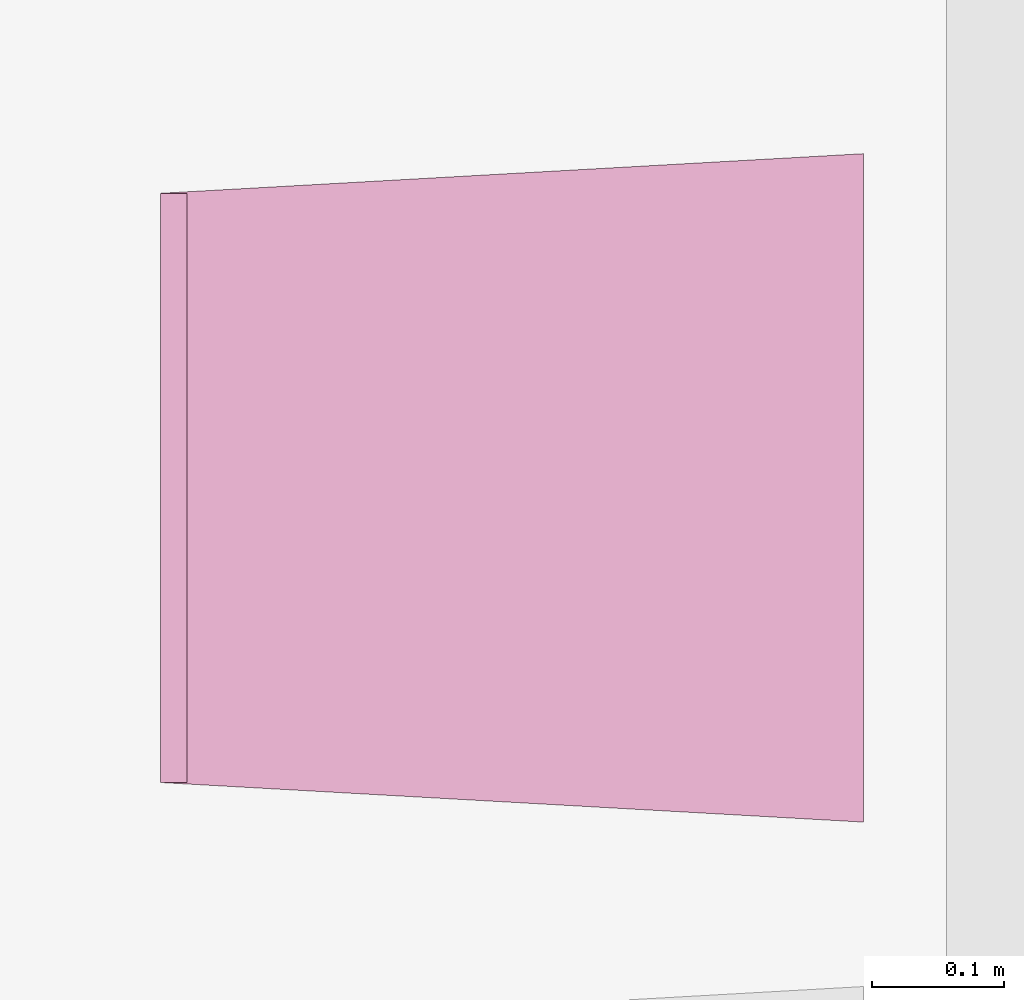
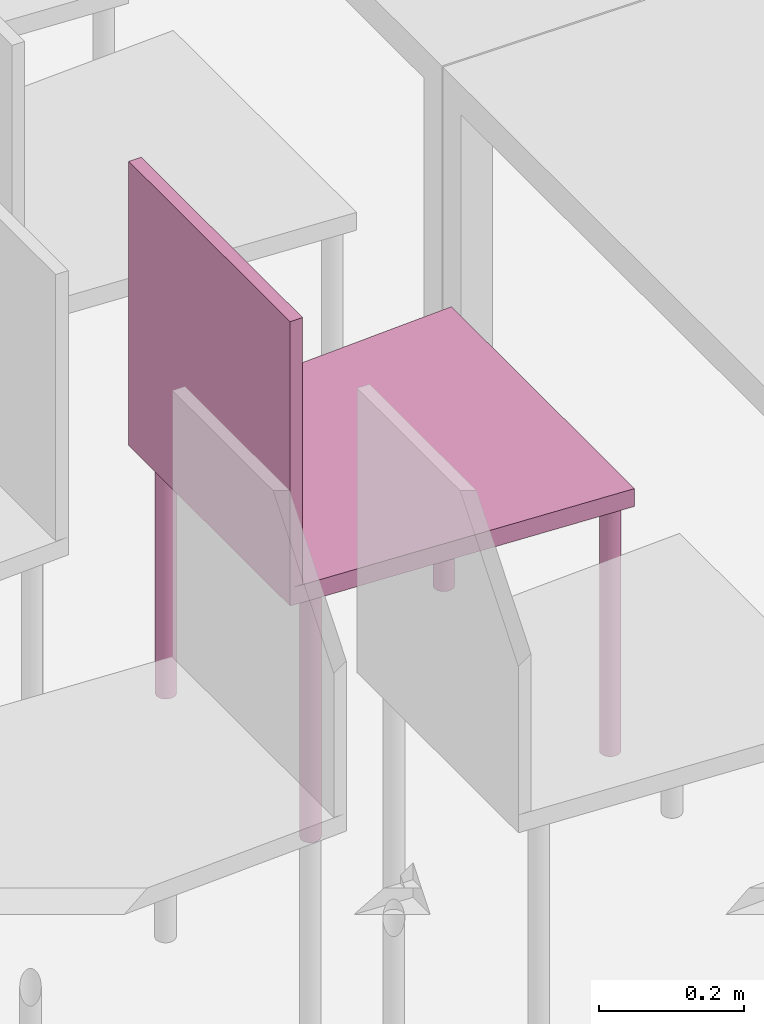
"""IFC4 building model written with IfcOpenShell, lengths in metres."""

from ifc_helpers import new_model, entity, si_unit, converted_unit, derived_unit, frame, origin, place, context, subcontext, project, spatial, faceted_brep, element, save


model = new_model("IFC4")

# Units and contexts
model_context = context("Model", 3, precision=1e-05, world=origin())
body_context = subcontext(model_context, "Body", "Model", "MODEL_VIEW")
ifc_project = project(units=[si_unit("LENGTHUNIT", "METRE"), si_unit("AREAUNIT", "SQUARE_METRE"), si_unit("VOLUMEUNIT", "CUBIC_METRE"), si_unit("MASSUNIT", "GRAM", prefix="KILO"), converted_unit("PLANEANGLEUNIT", "DEGREE", entity("IfcPlaneAngleMeasure", 0.0174532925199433), si_unit("PLANEANGLEUNIT", "RADIAN"), dimensions=[0, 0, 0, 0, 0, 0, 0]), derived_unit("THERMALTRANSMITTANCEUNIT", [(si_unit("POWERUNIT", "WATT"), 1), (si_unit("THERMODYNAMICTEMPERATUREUNIT", "KELVIN"), -1), (si_unit("LENGTHUNIT", "METRE"), -2)]), derived_unit("VOLUMETRICFLOWRATEUNIT", [(si_unit("LENGTHUNIT", "METRE"), 3), (converted_unit("TIMEUNIT", "hour", entity("IfcTimeMeasure", 3600.0), si_unit("TIMEUNIT", "SECOND"), dimensions=[0, 0, 1, 0, 0, 0, 0]), -1), (si_unit("LENGTHUNIT", "METRE"), -1)])], contexts=[model_context])

# Building, storeys
building_placement = place(None, origin())
building = spatial("IfcBuilding", under=ifc_project, at=building_placement, Name="HABITATGE PLURIFAMILIAR", CompositionType="ELEMENT")
storey_1_placement = place(building_placement, frame((0.0, 0.0, 3.35)))
storey_1 = spatial("IfcBuildingStorey", under=building, at=storey_1_placement, Name="PLANTA  ALTELL", CompositionType="ELEMENT", Elevation=3.35)
storey_2_placement = place(storey_1_placement, origin())
storey_2 = spatial("IfcBuildingStorey", under=storey_1, at=storey_2_placement, Name="NOU", CompositionType="PARTIAL")

# Furniture
furniture_placement = place(storey_2_placement, frame((401.456206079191, 15.4103721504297, 0.0499839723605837)))
element("IfcFurniture", 1, at=furniture_placement, inside=storey_2, Name="Cadira confident_PA", context=body_context, shape_type="Brep", body=[
    faceted_brep([(0.507575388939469, 0.0391636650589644, 0.0), (0.504980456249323, 0.0389479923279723, 0.0), (0.502462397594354, 0.0382849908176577, 0.0), (0.500097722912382, 0.0371948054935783, 0.0), (0.497958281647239, 0.0357105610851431, 0.0), (0.496109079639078, 0.0338773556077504, 0.0), (0.494606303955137, 0.0317508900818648, 0.0), (0.493495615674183, 0.0293957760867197, 0.0), (0.492810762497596, 0.0268835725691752, 0.0), (0.492572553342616, 0.0242906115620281, 0.0), (0.492788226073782, 0.0216956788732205, 0.0), (0.493451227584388, 0.019177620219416, 0.0), (0.494541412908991, 0.0168129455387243, 0.0), (0.496025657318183, 0.0146735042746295, 0.0), (0.497858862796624, 0.0128243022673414, 0.0), (0.499985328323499, 0.0113215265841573, 0.0), (0.502340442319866, 0.0102108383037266, 0.0), (0.504852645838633, 0.00952598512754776, 0.0), (0.507445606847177, 0.00928777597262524, 0.0), (0.510040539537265, 0.00950344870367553, 0.0), (0.512558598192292, 0.010166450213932, 0.0), (0.514923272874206, 0.0112566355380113, 0.0), (0.517062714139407, 0.0127408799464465, 0.0), (0.518911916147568, 0.0145740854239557, 0.0), (0.520414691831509, 0.0167005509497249, 0.0), (0.521525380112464, 0.0190556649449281, 0.0), (0.52221023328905, 0.0215678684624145, 0.0), (0.522448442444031, 0.0241608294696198, 0.0), (0.522232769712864, 0.0267557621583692, 0.0), (0.521569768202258, 0.0292738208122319, 0.0), (0.520479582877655, 0.0316384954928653, 0.0), (0.518995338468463, 0.0337779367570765, 0.0), (0.517162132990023, 0.0356271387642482, 0.0), (0.515035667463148, 0.0371299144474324, 0.0), (0.51268055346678, 0.038240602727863, 0.0), (0.510168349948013, 0.0389254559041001, 0.0), (0.507575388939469, 0.0391636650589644, 0.448281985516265), (0.510168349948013, 0.0389254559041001, 0.448281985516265), (0.51268055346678, 0.038240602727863, 0.448281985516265), (0.515035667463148, 0.0371299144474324, 0.448281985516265), (0.517162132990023, 0.0356271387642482, 0.448281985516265), (0.518995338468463, 0.0337779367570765, 0.448281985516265), (0.520479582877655, 0.0316384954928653, 0.448281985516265), (0.521569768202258, 0.0292738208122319, 0.448281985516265), (0.522232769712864, 0.0267557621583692, 0.448281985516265), (0.522448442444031, 0.0241608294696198, 0.448281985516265), (0.52221023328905, 0.0215678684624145, 0.448281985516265), (0.521525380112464, 0.0190556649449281, 0.448281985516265), (0.520414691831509, 0.0167005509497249, 0.448281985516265), (0.518911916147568, 0.0145740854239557, 0.448281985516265), (0.517062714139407, 0.0127408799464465, 0.448281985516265), (0.514923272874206, 0.0112566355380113, 0.448281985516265), (0.512558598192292, 0.010166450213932, 0.448281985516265), (0.510040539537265, 0.00950344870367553, 0.448281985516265), (0.507445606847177, 0.00928777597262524, 0.448281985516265), (0.504852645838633, 0.00952598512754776, 0.448281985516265), (0.502340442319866, 0.0102108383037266, 0.448281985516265), (0.499985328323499, 0.0113215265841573, 0.448281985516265), (0.497858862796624, 0.0128243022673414, 0.448281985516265), (0.496025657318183, 0.0146735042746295, 0.448281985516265), (0.494541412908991, 0.0168129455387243, 0.448281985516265), (0.493451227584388, 0.019177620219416, 0.448281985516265), (0.492788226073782, 0.0216956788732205, 0.448281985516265), (0.492572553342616, 0.0242906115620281, 0.448281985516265), (0.492810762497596, 0.0268835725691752, 0.448281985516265), (0.493495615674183, 0.0293957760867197, 0.448281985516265), (0.494606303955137, 0.0317508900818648, 0.448281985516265), (0.496109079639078, 0.0338773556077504, 0.448281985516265), (0.497958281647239, 0.0357105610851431, 0.448281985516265), (0.500097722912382, 0.0371948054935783, 0.448281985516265), (0.502462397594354, 0.0382849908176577, 0.448281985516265), (0.504980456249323, 0.0389479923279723, 0.448281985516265)], [[[0, 1, 2, 3, 4, 5, 6, 7, 8, 9, 10, 11, 12, 13, 14, 15, 16, 17, 18, 19, 20, 21, 22, 23, 24, 25, 26, 27, 28, 29, 30, 31, 32, 33, 34, 35]], [[36, 37, 38, 39, 40, 41, 42, 43, 44, 45, 46, 47, 48, 49, 50, 51, 52, 53, 54, 55, 56, 57, 58, 59, 60, 61, 62, 63, 64, 65, 66, 67, 68, 69, 70, 71]], [[1, 0, 36, 71]], [[2, 1, 71, 70]], [[3, 2, 70, 69]], [[4, 3, 69, 68]], [[5, 4, 68, 67]], [[6, 5, 67, 66]], [[7, 6, 66, 65]], [[8, 7, 65, 64]], [[9, 8, 64, 63]], [[10, 9, 63, 62]], [[11, 10, 62, 61]], [[12, 11, 61, 60]], [[13, 12, 60, 59]], [[14, 13, 59, 58]], [[15, 14, 58, 57]], [[16, 15, 57, 56]], [[17, 16, 56, 55]], [[18, 17, 55, 54]], [[19, 18, 54, 53]], [[20, 19, 53, 52]], [[21, 20, 52, 51]], [[22, 21, 51, 50]], [[23, 22, 50, 49]], [[24, 23, 49, 48]], [[25, 24, 48, 47]], [[26, 25, 47, 46]], [[27, 26, 46, 45]], [[28, 27, 45, 44]], [[29, 28, 44, 43]], [[30, 29, 43, 42]], [[31, 30, 42, 41]], [[32, 31, 41, 40]], [[33, 32, 40, 39]], [[34, 33, 39, 38]], [[35, 34, 38, 37]], [[0, 35, 37, 36]]], orient=[[False], [False], [False], [False], [False], [False], [False], [False], [False], [False], [False], [False], [False], [False], [False], [False], [False], [False], [False], [False], [False], [False], [False], [False], [False], [False], [False], [False], [False], [False], [False], [False], [False], [False], [False], [False], [False], [False]]),
    faceted_brep([(0.0451683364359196, 0.0668016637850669, 0.0), (0.0425734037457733, 0.0665859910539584, 0.0), (0.0400553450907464, 0.065922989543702, 0.0), (0.0376906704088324, 0.0648328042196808, 0.0), (0.0355512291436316, 0.0633485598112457, 0.0), (0.0337020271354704, 0.0615153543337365, 0.0), (0.0321992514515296, 0.0593888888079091, 0.0), (0.0310885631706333, 0.057033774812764, 0.0), (0.0304037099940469, 0.0545215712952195, 0.0), (0.030165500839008, 0.0519286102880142, 0.0), (0.0303811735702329, 0.0493336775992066, 0.0), (0.0310441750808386, 0.0468156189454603, 0.0), (0.0321343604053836, 0.0444509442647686, 0.0), (0.0336186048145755, 0.0423115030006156, 0.0), (0.035451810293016, 0.0404623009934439, 0.0), (0.0375782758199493, 0.0389595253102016, 0.0), (0.0399333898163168, 0.0378488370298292, 0.0), (0.0424455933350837, 0.0371639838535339, 0.0), (0.0450385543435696, 0.0369257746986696, 0.0), (0.0476334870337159, 0.0371414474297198, 0.0), (0.0501515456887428, 0.0378044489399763, 0.0), (0.0525162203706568, 0.0388946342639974, 0.0), (0.0546556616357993, 0.0403788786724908, 0.0), (0.0565048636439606, 0.0422120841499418, 0.0), (0.0580076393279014, 0.0443385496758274, 0.0), (0.0591183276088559, 0.0466936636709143, 0.0), (0.0598031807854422, 0.0492058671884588, 0.0), (0.060041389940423, 0.0517988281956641, 0.0), (0.0598257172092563, 0.0543937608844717, 0.0), (0.0591627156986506, 0.056911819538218, 0.0), (0.0580725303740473, 0.0592764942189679, 0.0), (0.0565882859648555, 0.0614159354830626, 0.0), (0.054755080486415, 0.0632651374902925, 0.0), (0.0526286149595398, 0.0647679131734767, 0.0), (0.0502735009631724, 0.0658786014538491, 0.0), (0.0477612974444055, 0.0665634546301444, 0.0), (0.0451683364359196, 0.0668016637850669, 0.448281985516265), (0.0477612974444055, 0.0665634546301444, 0.448281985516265), (0.0502735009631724, 0.0658786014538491, 0.448281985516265), (0.0526286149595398, 0.0647679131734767, 0.448281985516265), (0.054755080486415, 0.0632651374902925, 0.448281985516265), (0.0565882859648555, 0.0614159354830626, 0.448281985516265), (0.0580725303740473, 0.0592764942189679, 0.448281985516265), (0.0591627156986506, 0.056911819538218, 0.448281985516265), (0.0598257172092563, 0.0543937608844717, 0.448281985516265), (0.060041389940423, 0.0517988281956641, 0.448281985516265), (0.0598031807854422, 0.0492058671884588, 0.448281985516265), (0.0591183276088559, 0.0466936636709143, 0.448281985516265), (0.0580076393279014, 0.0443385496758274, 0.448281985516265), (0.0565048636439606, 0.0422120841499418, 0.448281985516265), (0.0546556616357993, 0.0403788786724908, 0.448281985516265), (0.0525162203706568, 0.0388946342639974, 0.448281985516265), (0.0501515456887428, 0.0378044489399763, 0.448281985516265), (0.0476334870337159, 0.0371414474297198, 0.448281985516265), (0.0450385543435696, 0.0369257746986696, 0.448281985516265), (0.0424455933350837, 0.0371639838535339, 0.448281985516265), (0.0399333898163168, 0.0378488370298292, 0.448281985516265), (0.0375782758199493, 0.0389595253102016, 0.448281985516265), (0.035451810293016, 0.0404623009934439, 0.448281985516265), (0.0336186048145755, 0.0423115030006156, 0.448281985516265), (0.0321343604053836, 0.0444509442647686, 0.448281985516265), (0.0310441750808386, 0.0468156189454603, 0.448281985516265), (0.0303811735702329, 0.0493336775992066, 0.448281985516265), (0.030165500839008, 0.0519286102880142, 0.448281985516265), (0.0304037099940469, 0.0545215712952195, 0.448281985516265), (0.0310885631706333, 0.057033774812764, 0.448281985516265), (0.0321992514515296, 0.0593888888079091, 0.448281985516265), (0.0337020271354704, 0.0615153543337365, 0.448281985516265), (0.0355512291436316, 0.0633485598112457, 0.448281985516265), (0.0376906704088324, 0.0648328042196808, 0.448281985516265), (0.0400553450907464, 0.065922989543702, 0.448281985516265), (0.0425734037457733, 0.0665859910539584, 0.448281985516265)], [[[0, 1, 2, 3, 4, 5, 6, 7, 8, 9, 10, 11, 12, 13, 14, 15, 16, 17, 18, 19, 20, 21, 22, 23, 24, 25, 26, 27, 28, 29, 30, 31, 32, 33, 34, 35]], [[36, 37, 38, 39, 40, 41, 42, 43, 44, 45, 46, 47, 48, 49, 50, 51, 52, 53, 54, 55, 56, 57, 58, 59, 60, 61, 62, 63, 64, 65, 66, 67, 68, 69, 70, 71]], [[1, 0, 36, 71]], [[2, 1, 71, 70]], [[3, 2, 70, 69]], [[4, 3, 69, 68]], [[5, 4, 68, 67]], [[6, 5, 67, 66]], [[7, 6, 66, 65]], [[8, 7, 65, 64]], [[9, 8, 64, 63]], [[10, 9, 63, 62]], [[11, 10, 62, 61]], [[12, 11, 61, 60]], [[13, 12, 60, 59]], [[14, 13, 59, 58]], [[15, 14, 58, 57]], [[16, 15, 57, 56]], [[17, 16, 56, 55]], [[18, 17, 55, 54]], [[19, 18, 54, 53]], [[20, 19, 53, 52]], [[21, 20, 52, 51]], [[22, 21, 51, 50]], [[23, 22, 50, 49]], [[24, 23, 49, 48]], [[25, 24, 48, 47]], [[26, 25, 47, 46]], [[27, 26, 46, 45]], [[28, 27, 45, 44]], [[29, 28, 44, 43]], [[30, 29, 43, 42]], [[31, 30, 42, 41]], [[32, 31, 41, 40]], [[33, 32, 40, 39]], [[34, 33, 39, 38]], [[35, 34, 38, 37]], [[0, 35, 37, 36]]], orient=[[False], [False], [False], [False], [False], [False], [False], [False], [False], [False], [False], [False], [False], [False], [False], [False], [False], [False], [False], [False], [False], [False], [False], [False], [False], [False], [False], [False], [False], [False], [False], [False], [False], [False], [False], [False], [False], [False]]),
    faceted_brep([(0.50757538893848, 0.499163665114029, 0.0), (0.504980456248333, 0.49894799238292, 0.0), (0.502462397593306, 0.498284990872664, 0.0), (0.500097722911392, 0.497194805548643, 0.0), (0.49795828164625, 0.495710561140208, 0.0), (0.49610907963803, 0.493877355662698, 0.0), (0.494606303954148, 0.491750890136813, 0.0), (0.493495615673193, 0.489395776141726, 0.0), (0.492810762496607, 0.486883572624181, 0.0), (0.492572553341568, 0.484290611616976, 0.0), (0.492788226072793, 0.481695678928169, 0.0), (0.493451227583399, 0.479177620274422, 0.0), (0.494541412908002, 0.476812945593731, 0.0), (0.496025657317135, 0.474673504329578, 0.0), (0.497858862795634, 0.472824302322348, 0.0), (0.499985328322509, 0.471321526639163, 0.0), (0.502340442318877, 0.470210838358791, 0.0), (0.504852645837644, 0.469525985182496, 0.0), (0.507445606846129, 0.469287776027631, 0.0), (0.510040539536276, 0.469503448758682, 0.0), (0.512558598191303, 0.470166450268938, 0.0), (0.514923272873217, 0.471256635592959, 0.0), (0.517062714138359, 0.472740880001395, 0.0), (0.518911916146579, 0.474574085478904, 0.0), (0.520414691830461, 0.476700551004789, 0.0), (0.521525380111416, 0.479055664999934, 0.0), (0.522210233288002, 0.481567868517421, 0.0), (0.522448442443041, 0.484160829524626, 0.0), (0.522232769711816, 0.486755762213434, 0.0), (0.521569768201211, 0.489273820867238, 0.0), (0.520479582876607, 0.491638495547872, 0.0), (0.518995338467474, 0.493777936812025, 0.0), (0.517162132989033, 0.495627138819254, 0.0), (0.5150356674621, 0.497129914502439, 0.0), (0.512680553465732, 0.498240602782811, 0.0), (0.510168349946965, 0.498925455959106, 0.0), (0.50757538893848, 0.499163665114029, 0.448281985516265), (0.510168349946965, 0.498925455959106, 0.448281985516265), (0.512680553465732, 0.498240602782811, 0.448281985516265), (0.5150356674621, 0.497129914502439, 0.448281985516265), (0.517162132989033, 0.495627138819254, 0.448281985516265), (0.518995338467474, 0.493777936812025, 0.448281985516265), (0.520479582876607, 0.491638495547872, 0.448281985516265), (0.521569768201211, 0.489273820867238, 0.448281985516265), (0.522232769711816, 0.486755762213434, 0.448281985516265), (0.522448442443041, 0.484160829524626, 0.448281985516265), (0.522210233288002, 0.481567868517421, 0.448281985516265), (0.521525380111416, 0.479055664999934, 0.448281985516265), (0.520414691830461, 0.476700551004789, 0.448281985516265), (0.518911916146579, 0.474574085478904, 0.448281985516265), (0.517062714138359, 0.472740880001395, 0.448281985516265), (0.514923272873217, 0.471256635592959, 0.448281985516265), (0.512558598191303, 0.470166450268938, 0.448281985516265), (0.510040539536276, 0.469503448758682, 0.448281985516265), (0.507445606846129, 0.469287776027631, 0.448281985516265), (0.504852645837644, 0.469525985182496, 0.448281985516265), (0.502340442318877, 0.470210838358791, 0.448281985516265), (0.499985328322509, 0.471321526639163, 0.448281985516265), (0.497858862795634, 0.472824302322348, 0.448281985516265), (0.496025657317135, 0.474673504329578, 0.448281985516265), (0.494541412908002, 0.476812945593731, 0.448281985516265), (0.493451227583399, 0.479177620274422, 0.448281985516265), (0.492788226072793, 0.481695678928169, 0.448281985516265), (0.492572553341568, 0.484290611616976, 0.448281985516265), (0.492810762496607, 0.486883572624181, 0.448281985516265), (0.493495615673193, 0.489395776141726, 0.448281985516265), (0.494606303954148, 0.491750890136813, 0.448281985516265), (0.49610907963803, 0.493877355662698, 0.448281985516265), (0.49795828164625, 0.495710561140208, 0.448281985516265), (0.500097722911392, 0.497194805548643, 0.448281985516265), (0.502462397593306, 0.498284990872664, 0.448281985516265), (0.504980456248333, 0.49894799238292, 0.448281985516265)], [[[0, 1, 2, 3, 4, 5, 6, 7, 8, 9, 10, 11, 12, 13, 14, 15, 16, 17, 18, 19, 20, 21, 22, 23, 24, 25, 26, 27, 28, 29, 30, 31, 32, 33, 34, 35]], [[36, 37, 38, 39, 40, 41, 42, 43, 44, 45, 46, 47, 48, 49, 50, 51, 52, 53, 54, 55, 56, 57, 58, 59, 60, 61, 62, 63, 64, 65, 66, 67, 68, 69, 70, 71]], [[1, 0, 36, 71]], [[2, 1, 71, 70]], [[3, 2, 70, 69]], [[4, 3, 69, 68]], [[5, 4, 68, 67]], [[6, 5, 67, 66]], [[7, 6, 66, 65]], [[8, 7, 65, 64]], [[9, 8, 64, 63]], [[10, 9, 63, 62]], [[11, 10, 62, 61]], [[12, 11, 61, 60]], [[13, 12, 60, 59]], [[14, 13, 59, 58]], [[15, 14, 58, 57]], [[16, 15, 57, 56]], [[17, 16, 56, 55]], [[18, 17, 55, 54]], [[19, 18, 54, 53]], [[20, 19, 53, 52]], [[21, 20, 52, 51]], [[22, 21, 51, 50]], [[23, 22, 50, 49]], [[24, 23, 49, 48]], [[25, 24, 48, 47]], [[26, 25, 47, 46]], [[27, 26, 46, 45]], [[28, 27, 45, 44]], [[29, 28, 44, 43]], [[30, 29, 43, 42]], [[31, 30, 42, 41]], [[32, 31, 41, 40]], [[33, 32, 40, 39]], [[34, 33, 39, 38]], [[35, 34, 38, 37]], [[0, 35, 37, 36]]], orient=[[False], [False], [False], [False], [False], [False], [False], [False], [False], [False], [False], [False], [False], [False], [False], [False], [False], [False], [False], [False], [False], [False], [False], [False], [False], [False], [False], [False], [False], [False], [False], [False], [False], [False], [False], [False], [False], [False]]),
    faceted_brep([(0.0451683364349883, 0.466801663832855, 0.0), (0.0425734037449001, 0.466585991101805, 0.0), (0.0400553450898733, 0.465922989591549, 0.0), (0.0376906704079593, 0.464832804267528, 0.0), (0.0355512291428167, 0.463348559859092, 0.0), (0.0337020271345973, 0.461515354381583, 0.0), (0.0321992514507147, 0.459388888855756, 0.0), (0.0310885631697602, 0.457033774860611, 0.0), (0.0304037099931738, 0.454521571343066, 0.0), (0.0301655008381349, 0.451928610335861, 0.0), (0.0303811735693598, 0.449333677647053, 0.0), (0.0310441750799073, 0.446815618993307, 0.0), (0.0321343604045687, 0.444450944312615, 0.0), (0.0336186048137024, 0.442311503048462, 0.0), (0.0354518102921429, 0.440462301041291, 0.0), (0.0375782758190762, 0.438959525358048, 0.0), (0.0399333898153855, 0.437848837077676, 0.0), (0.0424455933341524, 0.437163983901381, 0.0), (0.0450385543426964, 0.436925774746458, 0.0), (0.0476334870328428, 0.437141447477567, 0.0), (0.0501515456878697, 0.437804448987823, 0.0), (0.0525162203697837, 0.438894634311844, 0.0), (0.0546556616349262, 0.440378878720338, 0.0), (0.0565048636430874, 0.442212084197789, 0.0), (0.0580076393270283, 0.444338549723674, 0.0), (0.0591183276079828, 0.446693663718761, 0.0), (0.0598031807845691, 0.449205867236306, 0.0), (0.0600413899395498, 0.451798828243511, 0.0), (0.0598257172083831, 0.454393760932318, 0.0), (0.0591627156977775, 0.456911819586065, 0.0), (0.0580725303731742, 0.459276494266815, 0.0), (0.0565882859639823, 0.461415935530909, 0.0), (0.0547550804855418, 0.463265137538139, 0.0), (0.0526286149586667, 0.464767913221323, 0.0), (0.0502735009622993, 0.465878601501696, 0.0), (0.0477612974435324, 0.466563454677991, 0.0), (0.0451683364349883, 0.466801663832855, 0.448281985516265), (0.0477612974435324, 0.466563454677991, 0.448281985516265), (0.0502735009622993, 0.465878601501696, 0.448281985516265), (0.0526286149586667, 0.464767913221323, 0.448281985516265), (0.0547550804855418, 0.463265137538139, 0.448281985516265), (0.0565882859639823, 0.461415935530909, 0.448281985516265), (0.0580725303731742, 0.459276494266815, 0.448281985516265), (0.0591627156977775, 0.456911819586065, 0.448281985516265), (0.0598257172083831, 0.454393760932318, 0.448281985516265), (0.0600413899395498, 0.451798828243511, 0.448281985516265), (0.0598031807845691, 0.449205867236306, 0.448281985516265), (0.0591183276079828, 0.446693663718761, 0.448281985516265), (0.0580076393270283, 0.444338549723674, 0.448281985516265), (0.0565048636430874, 0.442212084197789, 0.448281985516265), (0.0546556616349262, 0.440378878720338, 0.448281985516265), (0.0525162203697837, 0.438894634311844, 0.448281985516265), (0.0501515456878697, 0.437804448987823, 0.448281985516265), (0.0476334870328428, 0.437141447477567, 0.448281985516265), (0.0450385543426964, 0.436925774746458, 0.448281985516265), (0.0424455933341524, 0.437163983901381, 0.448281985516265), (0.0399333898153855, 0.437848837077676, 0.448281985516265), (0.0375782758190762, 0.438959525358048, 0.448281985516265), (0.0354518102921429, 0.440462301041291, 0.448281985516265), (0.0336186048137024, 0.442311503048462, 0.448281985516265), (0.0321343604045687, 0.444450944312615, 0.448281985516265), (0.0310441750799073, 0.446815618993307, 0.448281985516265), (0.0303811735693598, 0.449333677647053, 0.448281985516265), (0.0301655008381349, 0.451928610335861, 0.448281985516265), (0.0304037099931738, 0.454521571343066, 0.448281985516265), (0.0310885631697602, 0.457033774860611, 0.448281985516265), (0.0321992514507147, 0.459388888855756, 0.448281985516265), (0.0337020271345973, 0.461515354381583, 0.448281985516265), (0.0355512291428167, 0.463348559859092, 0.448281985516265), (0.0376906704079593, 0.464832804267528, 0.448281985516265), (0.0400553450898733, 0.465922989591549, 0.448281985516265), (0.0425734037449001, 0.466585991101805, 0.448281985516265)], [[[0, 1, 2, 3, 4, 5, 6, 7, 8, 9, 10, 11, 12, 13, 14, 15, 16, 17, 18, 19, 20, 21, 22, 23, 24, 25, 26, 27, 28, 29, 30, 31, 32, 33, 34, 35]], [[36, 37, 38, 39, 40, 41, 42, 43, 44, 45, 46, 47, 48, 49, 50, 51, 52, 53, 54, 55, 56, 57, 58, 59, 60, 61, 62, 63, 64, 65, 66, 67, 68, 69, 70, 71]], [[1, 0, 36, 71]], [[2, 1, 71, 70]], [[3, 2, 70, 69]], [[4, 3, 69, 68]], [[5, 4, 68, 67]], [[6, 5, 67, 66]], [[7, 6, 66, 65]], [[8, 7, 65, 64]], [[9, 8, 64, 63]], [[10, 9, 63, 62]], [[11, 10, 62, 61]], [[12, 11, 61, 60]], [[13, 12, 60, 59]], [[14, 13, 59, 58]], [[15, 14, 58, 57]], [[16, 15, 57, 56]], [[17, 16, 56, 55]], [[18, 17, 55, 54]], [[19, 18, 54, 53]], [[20, 19, 53, 52]], [[21, 20, 52, 51]], [[22, 21, 51, 50]], [[23, 22, 50, 49]], [[24, 23, 49, 48]], [[25, 24, 48, 47]], [[26, 25, 47, 46]], [[27, 26, 46, 45]], [[28, 27, 45, 44]], [[29, 28, 44, 43]], [[30, 29, 43, 42]], [[31, 30, 42, 41]], [[32, 31, 41, 40]], [[33, 32, 40, 39]], [[34, 33, 39, 38]], [[35, 34, 38, 37]], [[0, 35, 37, 36]]], orient=[[False], [False], [False], [False], [False], [False], [False], [False], [False], [False], [False], [False], [False], [False], [False], [False], [False], [False], [False], [False], [False], [False], [False], [False], [False], [False], [False], [False], [False], [False], [False], [False], [False], [False], [False], [False], [False], [False]]),
    faceted_brep([(0.0, 0.476514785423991, 0.418281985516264), (0.0, 0.0300000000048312, 0.418281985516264), (0.532607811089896, 0.0, 0.418281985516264), (0.532607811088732, 0.506514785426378, 0.418281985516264), (0.532607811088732, 0.506514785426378, 0.448281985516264), (0.532607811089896, 0.0, 0.448281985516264), (0.0, 0.0300000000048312, 0.448281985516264), (0.0, 0.476514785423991, 0.448281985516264)], [[[0, 1, 2, 3]], [[4, 5, 6, 7]], [[3, 4, 7, 0]], [[2, 5, 4, 3]], [[1, 6, 5, 2]], [[0, 7, 6, 1]]], orient=[[False], [False], [False], [False], [False], [False]]),
    faceted_brep([(0.0200000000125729, 0.476514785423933, 0.448281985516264), (0.0, 0.476514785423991, 0.448281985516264), (0.0, 0.0300000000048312, 0.448281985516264), (0.0200000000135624, 0.0300000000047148, 0.448281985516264), (0.0200000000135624, 0.0300000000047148, 0.898281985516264), (0.0, 0.0300000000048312, 0.898281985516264), (0.0, 0.476514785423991, 0.898281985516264), (0.0200000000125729, 0.476514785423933, 0.898281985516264)], [[[0, 1, 2, 3]], [[4, 5, 6, 7]], [[3, 4, 7, 0]], [[2, 5, 4, 3]], [[1, 6, 5, 2]], [[0, 7, 6, 1]]], orient=[[False], [False], [False], [False], [False], [False]]),
])

save(model, "model.ifc")
